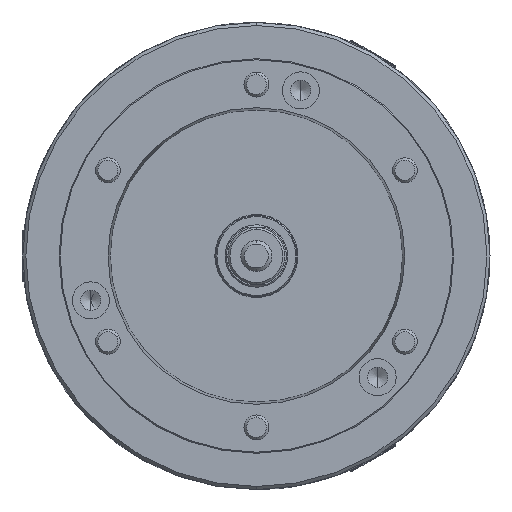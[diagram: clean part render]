
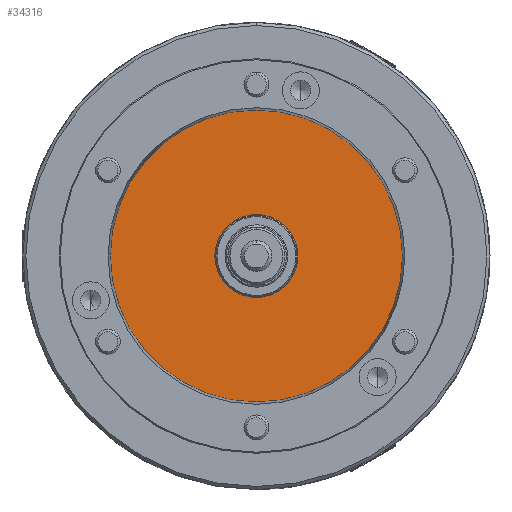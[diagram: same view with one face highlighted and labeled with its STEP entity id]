
A CAD part, left-side view. The second image highlights one B-rep face of the part: STEP entity #34316.
In plain terms, the highlighted planar face has unit normal (-1, 0, 0) as drawn and (0, 0, -1) by its records, which use the part's own axes.
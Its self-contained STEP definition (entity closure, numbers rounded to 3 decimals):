
#1300 = DIRECTION ( 'NONE',  ( 1., 0., 0. ) ) ;
#1426 = CARTESIAN_POINT ( 'NONE',  ( 0., 0., -146. ) ) ;
#1908 = CIRCLE ( 'NONE', #70713, 40. ) ;
#4759 = DIRECTION ( 'NONE',  ( 0., 0., 1. ) ) ;
#6957 = VERTEX_POINT ( 'NONE', #24491 ) ;
#7506 = ORIENTED_EDGE ( 'NONE', *, *, #18264, .F. ) ;
#7648 = ORIENTED_EDGE ( 'NONE', *, *, #100565, .F. ) ;
#9287 = DIRECTION ( 'NONE',  ( 1., 0., 0. ) ) ;
#12544 = CARTESIAN_POINT ( 'NONE',  ( -140.7, 0., -146. ) ) ;
#13302 = FACE_OUTER_BOUND ( 'NONE', #31177, .T. ) ;
#18264 = EDGE_CURVE ( 'NONE', #6957, #41002, #1908, .T. ) ;
#18928 = PLANE ( 'NONE',  #73091 ) ;
#22155 = ORIENTED_EDGE ( 'NONE', *, *, #39049, .F. ) ;
#23371 = DIRECTION ( 'NONE',  ( 0., 0., -1. ) ) ;
#24289 = CARTESIAN_POINT ( 'NONE',  ( 140.7, 0., -146. ) ) ;
#24491 = CARTESIAN_POINT ( 'NONE',  ( 40., 0., -146. ) ) ;
#26377 = ORIENTED_EDGE ( 'NONE', *, *, #91318, .F. ) ;
#26753 = DIRECTION ( 'NONE',  ( 1., 0., 0. ) ) ;
#28625 = AXIS2_PLACEMENT_3D ( 'NONE', #94309, #47790, #1300 ) ;
#31177 = EDGE_LOOP ( 'NONE', ( #7648, #26377 ) ) ;
#34316 = ADVANCED_FACE ( 'NONE', ( #13302, #56991 ), #18928, .F. ) ;
#39049 = EDGE_CURVE ( 'NONE', #41002, #6957, #58383, .T. ) ;
#41002 = VERTEX_POINT ( 'NONE', #82325 ) ;
#41992 = CARTESIAN_POINT ( 'NONE',  ( 0., -140.7, -146. ) ) ;
#47790 = DIRECTION ( 'NONE',  ( 0., 0., 1. ) ) ;
#51237 = CARTESIAN_POINT ( 'NONE',  ( 0., 0., -146. ) ) ;
#55758 = DIRECTION ( 'NONE',  ( 0., 0., -1. ) ) ;
#56991 = FACE_BOUND ( 'NONE', #68143, .T. ) ;
#58383 = CIRCLE ( 'NONE', #83204, 40. ) ;
#59093 = DIRECTION ( 'NONE',  ( 1., 0., 0. ) ) ;
#65413 = CIRCLE ( 'NONE', #66958, 140.7 ) ;
#66958 = AXIS2_PLACEMENT_3D ( 'NONE', #51237, #4759, #59093 ) ;
#68046 = VERTEX_POINT ( 'NONE', #24289 ) ;
#68143 = EDGE_LOOP ( 'NONE', ( #7506, #22155 ) ) ;
#69787 = CARTESIAN_POINT ( 'NONE',  ( 0., 0., -146. ) ) ;
#70713 = AXIS2_PLACEMENT_3D ( 'NONE', #1426, #55758, #9287 ) ;
#71663 = CIRCLE ( 'NONE', #28625, 140.7 ) ;
#73091 = AXIS2_PLACEMENT_3D ( 'NONE', #41992, #73224, #26753 ) ;
#73224 = DIRECTION ( 'NONE',  ( 0., 0., 1. ) ) ;
#75776 = VERTEX_POINT ( 'NONE', #12544 ) ;
#77600 = DIRECTION ( 'NONE',  ( 1., 0., 0. ) ) ;
#82325 = CARTESIAN_POINT ( 'NONE',  ( -40., 0., -146. ) ) ;
#83204 = AXIS2_PLACEMENT_3D ( 'NONE', #69787, #23371, #77600 ) ;
#91318 = EDGE_CURVE ( 'NONE', #75776, #68046, #71663, .T. ) ;
#94309 = CARTESIAN_POINT ( 'NONE',  ( 0., 0., -146. ) ) ;
#100565 = EDGE_CURVE ( 'NONE', #68046, #75776, #65413, .T. ) ;
